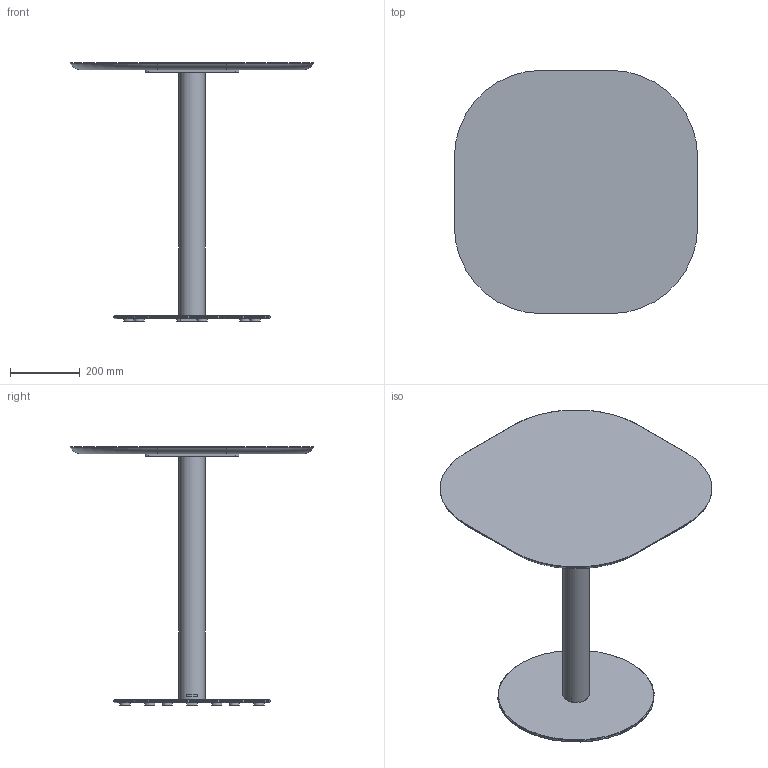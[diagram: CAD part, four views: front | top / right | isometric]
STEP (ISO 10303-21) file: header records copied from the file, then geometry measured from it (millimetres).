
FILE_DESCRIPTION( ('This file contains a STEP AP42 implementation' ,'as created by ZW3D STEP Interface translator.') ,'2;1' );
FILE_NAME( 'Henri - B_Rond - F2 - M3 - 700 x 700 x 750.stp' ,'24 912.1529 2', (''), ('ZWCAD Software Co.'), 'Version 1.0', 'ZW3D to STEP translator', '' );
FILE_SCHEMA(('AUTOMOTIVE_DESIGN { 1 0 10303 214 1 1 1 1 }'));
Length unit declared in the file: millimetre
Products named in the file (14): 0; PIED BISTROT PARAMETRIQUE_; COLONNE ACIER Ø76 V.02_; TUB-D076-02_; PLA-R76B-01_; SOCLE ACIER C Ø450 V.02_; SCL-D450-02_; PLA-R30A-01_; PLA-R30A-01; CROIX ACIER 370 V.02_; CRX-X370-02_; WUERTH 0276063020 Euro-screw 6.3x2 Verzinkt_; PLATEAU BISTROT PARAMETRIQUE_; insert_m6_13_
Assembly tree (24 placements, depth 3):
  0
  PIED BISTROT PARAMETRIQUE_
    COLONNE ACIER Ø76 V.02_
      TUB-D076-02_
      PLA-R76B-01_  x2
    SOCLE ACIER C Ø450 V.02_
      SCL-D450-02_
      PLA-R30A-01_
      PLA-R30A-01  x5
    CROIX ACIER 370 V.02_
      CRX-X370-02_
    WUERTH 0276063020 Euro-screw 6.3x2 Verzinkt_
    PLATEAU BISTROT PARAMETRIQUE_
      insert_m6_13_  x8
Bounding box: 700 x 700 x 744 mm (x, y, z)
Volume: 10589647.6 mm3; surface area: 1747970 mm2
Topology: 21 solids, 21 shells, 516 faces, 1257 edges, 794 vertices
Faces by surface type: plane 246, bspline 121, cylinder 103, cone 41, torus 5
Full cylindrical faces by diameter (mm): 4.88 x1, 6 x8, 6.3 x1, 8 x47, 12 x2, 14 x2, 30 x6, 72 x1, 76 x1, 450 x1
Entity records: 11538 total; most frequent: CARTESIAN_POINT 3270, ORIENTED_EDGE 1494, DIRECTION 1396, EDGE_CURVE 747, VERTEX_POINT 482, AXIS2_PLACEMENT_3D 470, VECTOR 456, LINE 456
